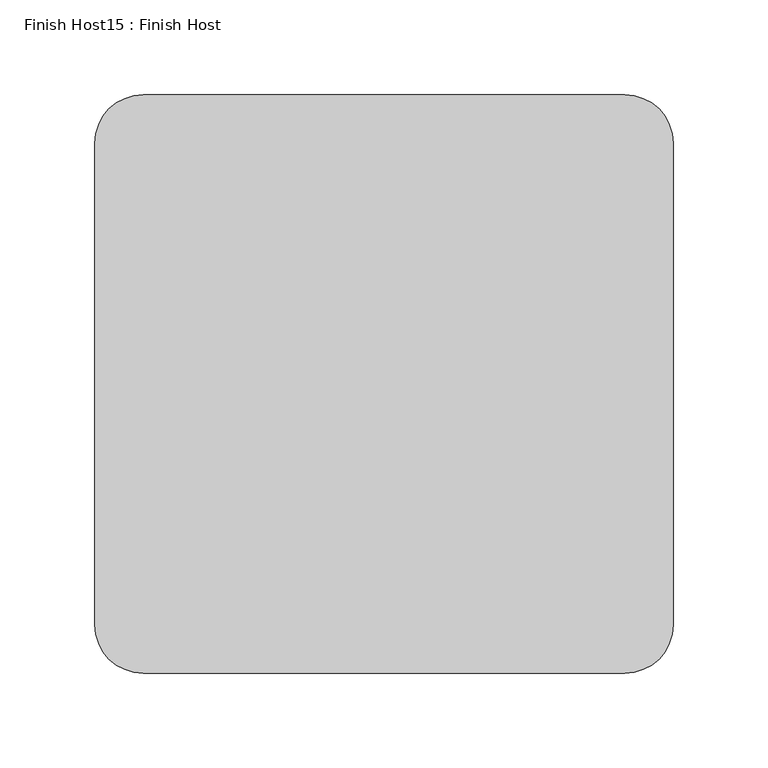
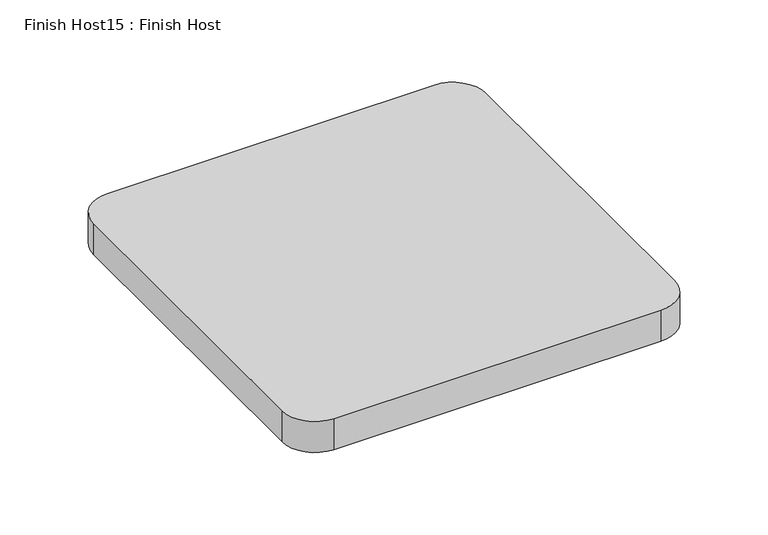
"""IFC4 building model written with IfcOpenShell, lengths in millimetres: proxy geometry, Finish Host15 : Finish Host."""

from ifc_helpers import new_model, si_unit, point, frame_2d, origin, origin_with_axes, place, context, project, spatial, polyline, circle_curve, trimmed, segment, composite_curve, outline, extrude, source, transform, mapped, element, save


def finish_host15_finish_host_5658b52d(model_context):
    return source(origin(), model_context, "Body", "SweptSolid", [
        extrude(outline(composite_curve([segment(polyline([(8048.7478493, 1206.8122951), (8048.7478493, 1460.8122951)]), True, "CONTINUOUS"), segment(trimmed(circle_curve(frame_2d((8074.1478493, 1460.8122951)), 25.4), [point((8048.7478493, 1460.8122951))], [point((8074.1478493, 1486.2122951))], False, "CARTESIAN"), True, "CONTINUOUS"), segment(polyline([(8074.1478493, 1486.2122951), (8328.1478493, 1486.2122951)]), True, "CONTINUOUS"), segment(trimmed(circle_curve(frame_2d((8328.1478493, 1460.8122951)), 25.4), [point((8328.1478493, 1486.2122951))], [point((8353.5478493, 1460.8122951))], False, "CARTESIAN"), True, "CONTINUOUS"), segment(polyline([(8353.5478493, 1460.8122951), (8353.5478493, 1206.8122951)]), True, "CONTINUOUS"), segment(trimmed(circle_curve(frame_2d((8328.1478493, 1206.8122951)), 25.4), [point((8353.5478493, 1206.8122951))], [point((8328.1478493, 1181.4122951))], False, "CARTESIAN"), True, "CONTINUOUS"), segment(polyline([(8328.1478493, 1181.4122951), (8074.1478493, 1181.4122951)]), True, "CONTINUOUS"), segment(trimmed(circle_curve(frame_2d((8074.1478493, 1206.8122951)), 25.4), [point((8074.1478493, 1181.4122951))], [point((8048.7478493, 1206.8122951))], False, "CARTESIAN"), True, "CONTINUOUS")], self_intersect=False)), origin_with_axes(), (0.0, 0.0, 1.0), 25.4),
    ])


if __name__ == "__main__":
    model = new_model("IFC4")
    model_context = context("Model", 3, world=origin())
    ifc_project = project(units=[si_unit("LENGTHUNIT", "METRE", prefix="MILLI")], contexts=[model_context])
    site = spatial("IfcSite", under=ifc_project)
    building = spatial("IfcBuilding", under=site)
    placement = place(None, origin())
    finish_host15_finish_host_shape = finish_host15_finish_host_5658b52d(model_context)
    element("IfcBuildingElementProxy", 1, Name="Finish Host15 : Finish Host", ObjectType="Finish Host15 : Finish Host", at=placement, inside=building, context=model_context, shape_type="MappedRepresentation", body=[
        mapped(finish_host15_finish_host_shape, transform((0.0, 0.0, 0.0), x_axis=(1.0, 0.0, 0.0), y_axis=(0.0, 1.0, 0.0), z_axis=(0.0, 0.0, 1.0))),
    ])
    save(model, "model.ifc")
